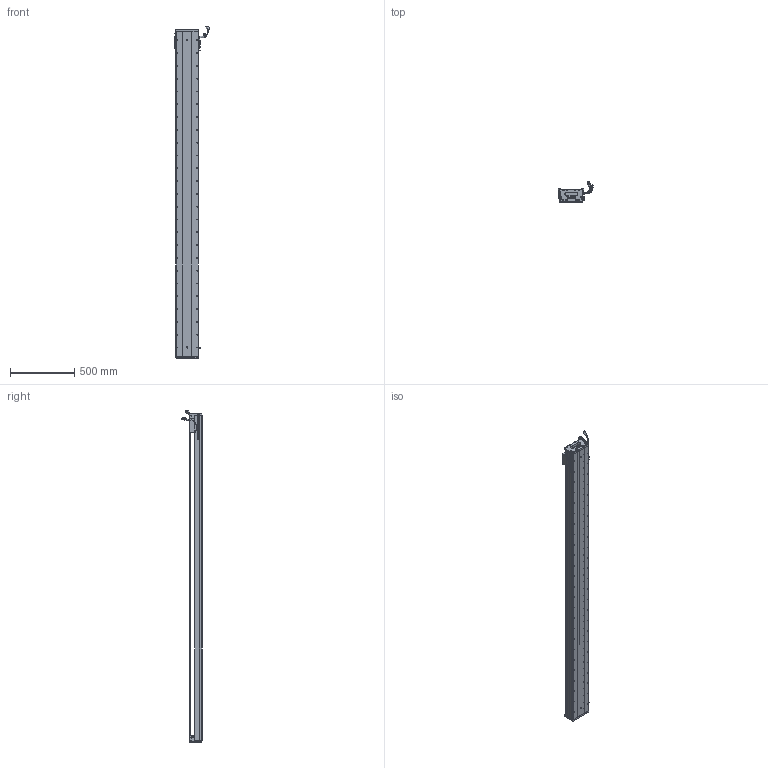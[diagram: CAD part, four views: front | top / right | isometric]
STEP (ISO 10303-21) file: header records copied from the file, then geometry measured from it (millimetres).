
FILE_DESCRIPTION (( 'STEP AP203' ), '1' );
FILE_NAME ('Z1-RY170D-1-L500-B-K.SLDASM_2350.step', '2021-05-17T08:55:24', ( '盈信电脑' ), ( '东莞市道滘镇水果街19号' ), 'SwSTEP 2.0', 'SolidWorks 2016', '' );
FILE_SCHEMA (( 'CONFIG_CONTROL_DESIGN' ));
Length unit declared in the file: millimetre
Products named in the file (36): COVER-Part-1; SEAL; 080黍杅芛假蚾釱21遴; 140雄赽晤鎢ん堤盄; PSLH080_PSLF2; SEAL-Part-1; Z1-RY170臏賑輸(21遴); HARNESS; SCREW-M1.6-1; COVER; Z1-RY170-L500詩湍145mm遵_2350; SHIELDPLATE; HOLDER0; SCREW-M1.6-3; RY170直线电机感应器672光电感应片; 覜茼ん672; Z-RY170詩湍奻揤裔; SCALE-Part-1; Z1-RY170-L500耀郪菁釱_2350; LABEL; SCALE-Part-2; 170-Z-臏賑輸盄裔(21遴); Z1-RY170D-1-L500-B-K.SLDASM_2350; SCREW-M1.6-2; SCALE; SCREW-M1.6; LABEL-Part-1; PBU_SHEET; 140蚥薯蝶輸; HARNESS-Part-1; SCREW-M1.7; 榋妏寠巭燃_暯_M2_2; HARNESS-Part-2; SCREW-M1.7-1; Z-RY170詩湍狟揤裔; Z-170詩湍傷裔啣
Assembly tree (41 placements, depth 4):
  Z1-RY170D-1-L500-B-K.SLDASM_2350
    Z1-RY170-L500耀郪菁釱_2350
    RY170直线电机感应器672光电感应片
    Z1-RY170臏賑輸(21遴)
    覜茼ん672  x3
    PSLH080_PSLF2
      SCALE
        SCALE-Part-1
        SCALE-Part-2
      HARNESS
        HARNESS-Part-1
        HARNESS-Part-2
      LABEL
        LABEL-Part-1
      COVER
        COVER-Part-1
      SEAL
        SEAL-Part-1
      榋妏寠巭燃_暯_M2_2
      SHIELDPLATE
      SCREW-M1.7
      SCREW-M1.7-1
      PBU_SHEET
      SCREW-M1.6
      SCREW-M1.6-1
      SCREW-M1.6-2
      SCREW-M1.6-3
      HOLDER0
    080黍杅芛假蚾釱21遴
    Z1-RY170-L500詩湍145mm遵_2350
    Z-170詩湍傷裔啣  x2
    Z-RY170詩湍奻揤裔  x2
    Z-RY170詩湍狟揤裔  x2
    140蚥薯蝶輸  x2
    170-Z-臏賑輸盄裔(21遴)
    140雄赽晤鎢ん堤盄
Bounding box: 275.34 x 158.11 x 2593.72 mm (x, y, z)
Volume: 12416068.8 mm3; surface area: 3104560.1 mm2
Topology: 36 solids, 36 shells, 3926 faces, 10897 edges, 6811 vertices
Faces by surface type: cylinder 1972, plane 1288, cone 544, torus 69, bspline 53
Entity records: 123541 total; most frequent: CARTESIAN_POINT 34756, ORIENTED_EDGE 18278, DIRECTION 16963, EDGE_CURVE 9139, AXIS2_PLACEMENT_3D 6232, VERTEX_POINT 5929, LINE 4499, VECTOR 4499
